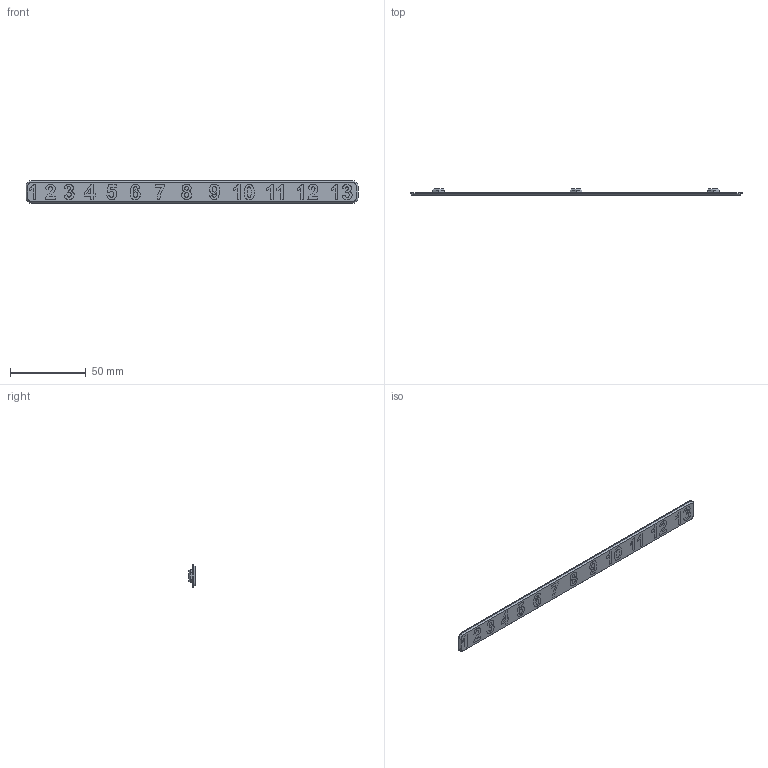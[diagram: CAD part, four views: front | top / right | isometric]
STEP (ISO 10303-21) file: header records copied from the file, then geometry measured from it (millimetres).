
FILE_DESCRIPTION(/* description */ (''),/* implementation_level */ '2;1');
FILE_NAME(/* name */ 'Bohrer Halter - SKADIS - Ziffernplatte.step',/* time_stamp */ '2025-09-30T00:39:56+02:00',/* author */ (''),/* organization */ (''),/* preprocessor_version */ 'ST-DEVELOPER v20.1',/* originating_system */ 'Autodesk Translation Framework v14.17.0.0',/* authorisation */ '');
FILE_SCHEMA (('AUTOMOTIVE_DESIGN { 1 0 10303 214 3 1 1 }'));
Length unit declared in the file: millimetre
Products named in the file (1): Bohrer Halter - SKADIS
Bounding box: 219 x 4.1 x 15 mm (x, y, z)
Volume: 5368.5 mm3; surface area: 9557.9 mm2
Topology: 18 solids, 18 shells, 696 faces, 1876 edges, 1242 vertices
Faces by surface type: bspline 438, plane 250, cone 4, cylinder 4
Entity records: 27544 total; most frequent: CARTESIAN_POINT 13061, ORIENTED_EDGE 3752, EDGE_CURVE 1876, DIRECTION 1530, VERTEX_POINT 1242, LINE 988, VECTOR 988, B_SPLINE_CURVE_WITH_KNOTS 876
